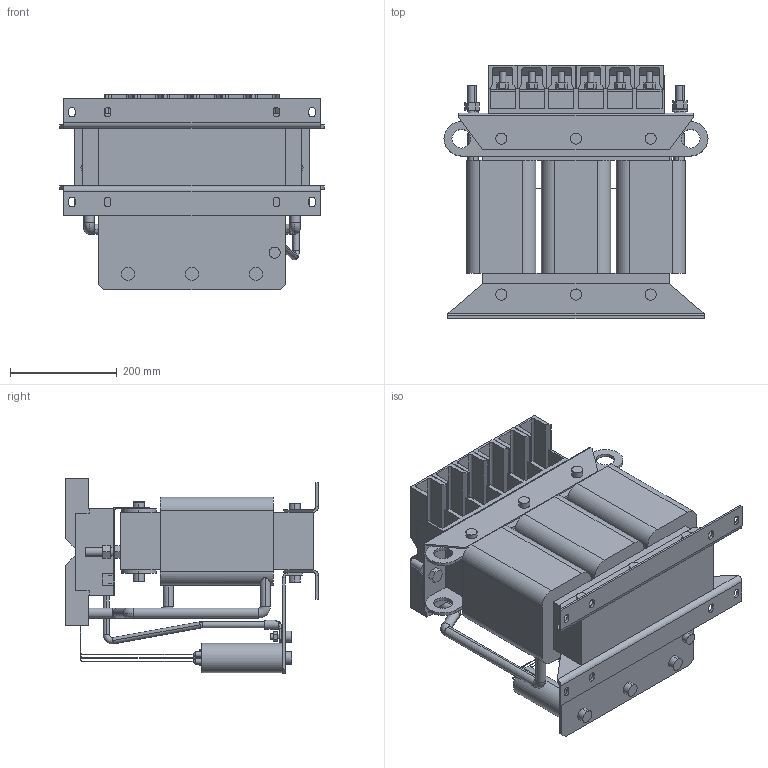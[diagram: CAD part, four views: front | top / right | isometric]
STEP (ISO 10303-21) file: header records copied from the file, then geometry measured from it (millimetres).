
FILE_DESCRIPTION (( 'STEP AP214' ), '1' );
FILE_NAME ('00Z1GX4-0026.STEP', '2022-11-22T13:59:08', ( '' ), ( '' ), 'SwSTEP 2.0', 'SolidWorks 2022', '' );
FILE_SCHEMA (( 'AUTOMOTIVE_DESIGN' ));
Length unit declared in the file: centimetre
Products named in the file (1): 00Z1GX4-0026
Bounding box: 495 x 474.73 x 367.3 mm (x, y, z)
Volume: 26917393.3 mm3; surface area: 1709282.5 mm2
Topology: 1 solids, 1 shells, 1009 faces, 2613 edges, 1683 vertices
Faces by surface type: plane 549, cylinder 332, torus 82, bspline 28, cone 18
Entity records: 37342 total; most frequent: CARTESIAN_POINT 12046, ORIENTED_EDGE 5226, DIRECTION 5202, EDGE_CURVE 2613, AXIS2_PLACEMENT_3D 1791, VERTEX_POINT 1683, VECTOR 1620, LINE 1620
